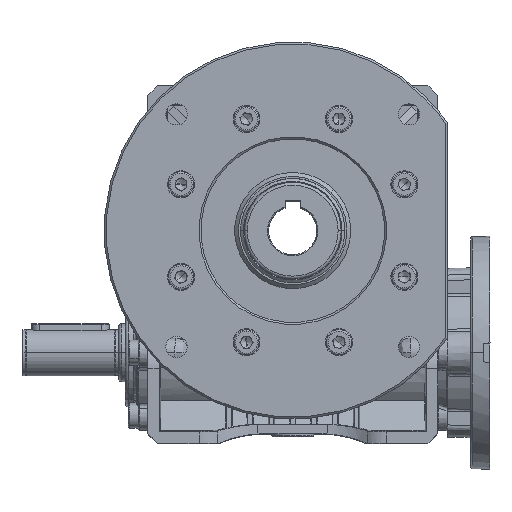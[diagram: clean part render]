
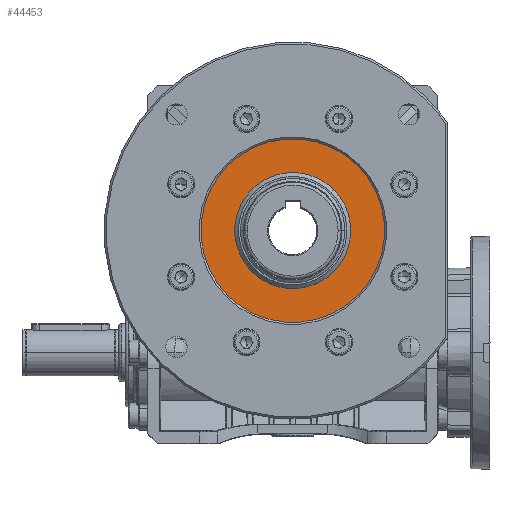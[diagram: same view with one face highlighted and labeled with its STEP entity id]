
A CAD part, top view. The second image highlights one B-rep face of the part: STEP entity #44453.
In plain terms, the highlighted planar face has unit normal (0, 0, 1).
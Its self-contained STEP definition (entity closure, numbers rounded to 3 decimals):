
#5823 = AXIS2_PLACEMENT_3D ( 'NONE', #75806, #25476, #36224 ) ;
#6360 = CARTESIAN_POINT ( 'NONE',  ( 0., 0., 76. ) ) ;
#6410 = EDGE_CURVE ( 'NONE', #122051, #31013, #7799, .T. ) ;
#7799 = CIRCLE ( 'NONE', #52834, 30. ) ;
#9698 = AXIS2_PLACEMENT_3D ( 'NONE', #75253, #35001, #75915 ) ;
#17598 = DIRECTION ( 'NONE',  ( 0., 0., 1. ) ) ;
#18250 = CIRCLE ( 'NONE', #9698, 48.5 ) ;
#19792 = ORIENTED_EDGE ( 'NONE', *, *, #6410, .T. ) ;
#22676 = CARTESIAN_POINT ( 'NONE',  ( 34.295, 34.295, 76. ) ) ;
#22977 = EDGE_LOOP ( 'NONE', ( #19792, #44524 ) ) ;
#23367 = DIRECTION ( 'NONE',  ( -0.707, -0.707, 0. ) ) ;
#25476 = DIRECTION ( 'NONE',  ( 0., 0., -1. ) ) ;
#26326 = CARTESIAN_POINT ( 'NONE',  ( 0., 0., 76. ) ) ;
#31013 = VERTEX_POINT ( 'NONE', #61028 ) ;
#33442 = DIRECTION ( 'NONE',  ( 0., 0., -1. ) ) ;
#35001 = DIRECTION ( 'NONE',  ( 0., 0., 1. ) ) ;
#36224 = DIRECTION ( 'NONE',  ( -0.707, -0.707, 0. ) ) ;
#44453 = ADVANCED_FACE ( 'NONE', ( #99677, #98360 ), #69427, .F. ) ;
#44524 = ORIENTED_EDGE ( 'NONE', *, *, #102857, .T. ) ;
#52834 = AXIS2_PLACEMENT_3D ( 'NONE', #6360, #33442, #23367 ) ;
#56724 = CARTESIAN_POINT ( 'NONE',  ( 21.213, 21.213, 76. ) ) ;
#59348 = DIRECTION ( 'NONE',  ( -0.707, -0.707, 0. ) ) ;
#61028 = CARTESIAN_POINT ( 'NONE',  ( 21.213, 21.213, 76. ) ) ;
#69427 = PLANE ( 'NONE',  #99302 ) ;
#70094 = DIRECTION ( 'NONE',  ( 0., 0., -1. ) ) ;
#75253 = CARTESIAN_POINT ( 'NONE',  ( 0., 0., 76. ) ) ;
#75806 = CARTESIAN_POINT ( 'NONE',  ( 0., 0., 76. ) ) ;
#75915 = DIRECTION ( 'NONE',  ( -0.707, -0.707, 0. ) ) ;
#77888 = CARTESIAN_POINT ( 'NONE',  ( -21.213, -21.213, 76. ) ) ;
#82941 = EDGE_LOOP ( 'NONE', ( #101586, #131563 ) ) ;
#86690 = EDGE_CURVE ( 'NONE', #129219, #127442, #124617, .T. ) ;
#87261 = CIRCLE ( 'NONE', #5823, 30. ) ;
#98360 = FACE_BOUND ( 'NONE', #22977, .T. ) ;
#99302 = AXIS2_PLACEMENT_3D ( 'NONE', #56724, #70094, #59348 ) ;
#99677 = FACE_OUTER_BOUND ( 'NONE', #82941, .T. ) ;
#101586 = ORIENTED_EDGE ( 'NONE', *, *, #86690, .T. ) ;
#102857 = EDGE_CURVE ( 'NONE', #31013, #122051, #87261, .T. ) ;
#117709 = EDGE_CURVE ( 'NONE', #127442, #129219, #18250, .T. ) ;
#122051 = VERTEX_POINT ( 'NONE', #77888 ) ;
#124617 = CIRCLE ( 'NONE', #126714, 48.5 ) ;
#124897 = CARTESIAN_POINT ( 'NONE',  ( -34.295, -34.295, 76. ) ) ;
#126714 = AXIS2_PLACEMENT_3D ( 'NONE', #26326, #17598, #130982 ) ;
#127442 = VERTEX_POINT ( 'NONE', #22676 ) ;
#129219 = VERTEX_POINT ( 'NONE', #124897 ) ;
#130982 = DIRECTION ( 'NONE',  ( -0.707, -0.707, 0. ) ) ;
#131563 = ORIENTED_EDGE ( 'NONE', *, *, #117709, .T. ) ;
